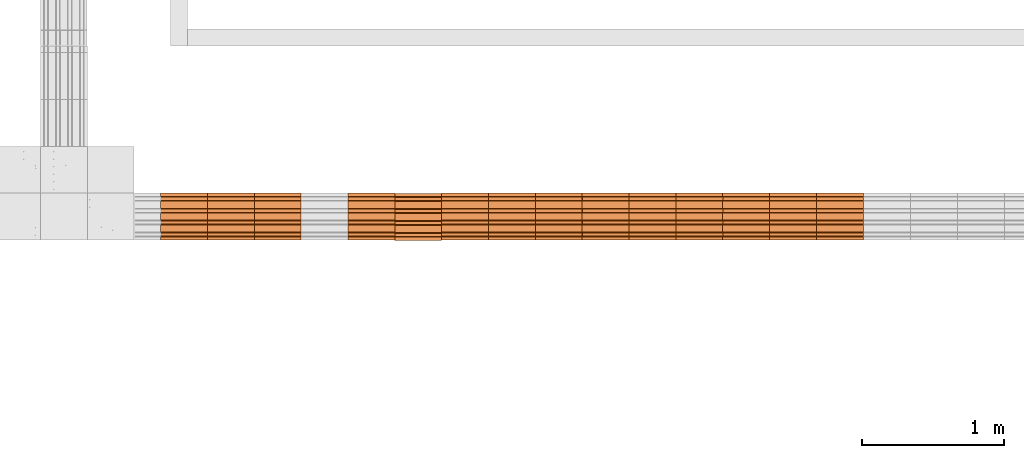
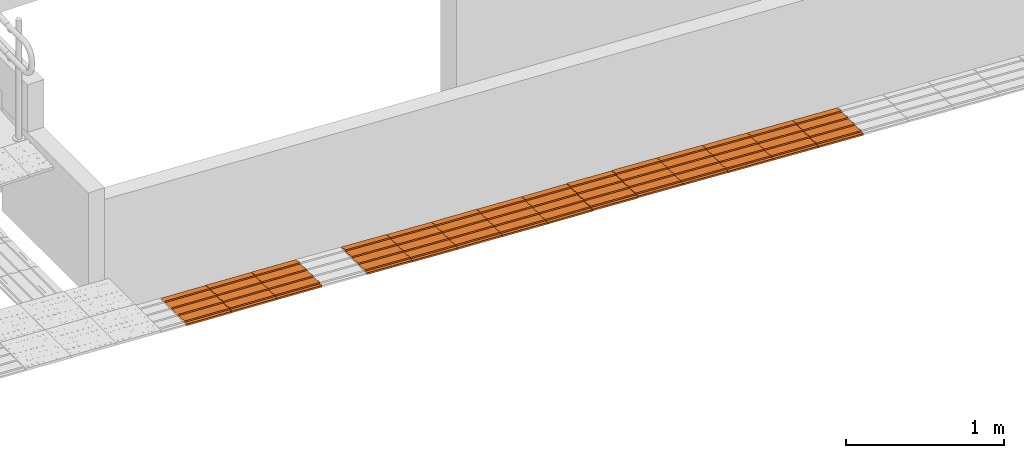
# One storey, part 173 of 237: 14 proxies.
"""IFC2X3 building model written with IfcOpenShell, lengths in millimetres."""

import ifcopenshell
import ifcopenshell.guid

model = None  # the IFC model being written
_history = None  # IfcOwnerHistory: only IFC2X3 demands one
_inside = {}  # id of a spatial element -> (the spatial element, [elements in it])
_under = {}  # id of a project, library or spatial element -> (it, [spatial elements below it])
_declared = {}  # id of a project -> (the project, [libraries it declares])
_typed = {}  # id of a type object -> (the type object, [elements of that type])
_made_of = {}  # id of a material, layer set ... -> (it, [elements and type objects made of it])


def new_model(schema):
    """Start an empty IFC model of exactly this schema.

    Asked for "IFC4X3", IfcOpenShell would pick the latest addendum, in which some entities
    have other attributes; the version numbers below select the first issue.
    IFC2X3 requires an IfcOwnerHistory on every rooted entity: one is made here for all.
    """
    global model, _history
    if schema == "IFC4X3":
        model = ifcopenshell.file(schema_version=(4, 3, 0, 0))
    else:
        model = ifcopenshell.file(schema=schema)
    _inside.clear()
    _under.clear()
    _declared.clear()
    _typed.clear()
    _made_of.clear()
    _history = None
    if model.schema == "IFC2X3":
        org = make("IfcOrganization", Name="unknown")
        user = make(
            "IfcPersonAndOrganization",
            ThePerson=make("IfcPerson", FamilyName="unknown"),
            TheOrganization=org,
        )
        app = make(
            "IfcApplication",
            ApplicationDeveloper=org,
            Version="unknown",
            ApplicationFullName="unknown",
            ApplicationIdentifier="unknown",
        )
        _history = make(
            "IfcOwnerHistory",
            OwningUser=user,
            OwningApplication=app,
            ChangeAction="ADDED",
            CreationDate=0,
        )
    return model


def make(cls, **values):
    """One entity of the class cls with the attributes given. An attribute that is None is left unset."""
    return model.create_entity(
        cls, **{name: value for name, value in values.items() if value is not None}
    )


def entity(cls, *values):
    """Any entity or typed value of the class cls, its attributes in the order of the schema. None: left unset."""
    e = model.create_entity(cls)
    for i, value in enumerate(values):
        if value is not None:
            e[i] = value
    return e


def rooted(cls, **values):
    """An entity with a GlobalId (a new one), such as an element, a storey or a relation."""
    return make(cls, GlobalId=ifcopenshell.guid.new(), OwnerHistory=_history, **values)


def si_unit(unit_type, name, prefix=None):
    """IfcSIUnit, for example si_unit("LENGTHUNIT", "METRE", prefix="MILLI")."""
    return make("IfcSIUnit", UnitType=unit_type, Prefix=prefix, Name=name)


def converted_unit(unit_type, name, factor, base, dimensions=None, offset=None):
    """IfcConversionBasedUnit, such as the inch: factor (a typed value) times the base unit."""
    return make(
        "IfcConversionBasedUnit"
        if offset is None
        else "IfcConversionBasedUnitWithOffset",
        ConversionOffset=offset,
        Dimensions=None
        if dimensions is None
        else entity("IfcDimensionalExponents", *dimensions),
        UnitType=unit_type,
        Name=name,
        ConversionFactor=make(
            "IfcMeasureWithUnit", ValueComponent=factor, UnitComponent=base
        ),
    )


def derived_unit(unit_type, elements):
    """IfcDerivedUnit: a product of units, each with its exponent."""
    return make(
        "IfcDerivedUnit",
        Elements=[
            make("IfcDerivedUnitElement", Unit=unit, Exponent=power)
            for unit, power in elements
        ],
        UnitType=unit_type,
    )


def money_unit(currency):
    """IfcMonetaryUnit."""
    return make("IfcMonetaryUnit", Currency=currency)


def assignment(units):
    """IfcUnitAssignment: the units of a project."""
    return None if units is None else make("IfcUnitAssignment", Units=units)


def point(xyz):
    """IfcCartesianPoint."""
    return None if xyz is None else make("IfcCartesianPoint", Coordinates=xyz)


def direction(xyz):
    """IfcDirection."""
    return None if xyz is None else make("IfcDirection", DirectionRatios=xyz)


def frame(location, z_axis=None, x_axis=None):
    """IfcAxis2Placement3D, a coordinate frame: its origin and axes. An axis left out is left unset."""
    return make(
        "IfcAxis2Placement3D",
        Location=point(location),
        Axis=direction(z_axis),
        RefDirection=direction(x_axis),
    )


def origin_with_axes():
    """The frame at (0, 0, 0) with the z axis (0, 0, 1) and the x axis (1, 0, 0) written out."""
    return frame((0.0, 0.0, 0.0), z_axis=(0.0, 0.0, 1.0), x_axis=(1.0, 0.0, 0.0))


def place(relative_to, where):
    """IfcLocalPlacement: puts the frame where relative to a parent placement (None: the world)."""
    return make(
        "IfcLocalPlacement", PlacementRelTo=relative_to, RelativePlacement=where
    )


def context(
    kind, dimensions, precision=None, world=None, true_north=None, identifier=None
):
    """IfcGeometricRepresentationContext, for example the 3D "Model" context."""
    return make(
        "IfcGeometricRepresentationContext",
        ContextIdentifier=identifier,
        ContextType=kind,
        CoordinateSpaceDimension=dimensions,
        Precision=precision,
        WorldCoordinateSystem=world,
        TrueNorth=true_north,
    )


def subcontext(parent, identifier, kind, view, scale=None):
    """IfcGeometricRepresentationSubContext, for example "Body" below "Model"."""
    return make(
        "IfcGeometricRepresentationSubContext",
        ContextIdentifier=identifier,
        ContextType=kind,
        ParentContext=parent,
        TargetScale=scale,
        TargetView=view,
    )


def project(units=None, contexts=None):
    """IfcProject with its units and contexts."""
    return rooted(
        "IfcProject",
        Name="project",
        RepresentationContexts=contexts,
        UnitsInContext=assignment(units),
    )


def spatial(cls, under=None, at=None, **own):
    """A site, building, storey or space (cls), placed at a placement, below another one or the project."""
    s = rooted(cls, ObjectPlacement=at, **own)
    if under is not None:
        _under.setdefault(under.id(), (under, []))[1].append(s)
    return s


def faces_of(points, faces, orient=None, outer=None):
    """IfcFace entities. A face is a list of loops; a loop is a list of indices into points, from 0.

    orient and outer hold one flag for each loop. By default every Orientation is true, the
    first loop of a face is its IfcFaceOuterBound and the others are IfcFaceBound.
    """
    made = []
    for i, loops in enumerate(faces):
        bounds = []
        for j, loop in enumerate(loops):
            is_outer = j == 0 if outer is None else outer[i][j]
            bounds.append(
                make(
                    "IfcFaceOuterBound" if is_outer else "IfcFaceBound",
                    Bound=make("IfcPolyLoop", Polygon=[points[k] for k in loop]),
                    Orientation=True if orient is None else orient[i][j],
                )
            )
        made.append(make("IfcFace", Bounds=bounds))
    return made


def open_shell(faces, orient=None, outer=None):
    """The faces of one IfcOpenShell. surface_model builds it on its shared points."""
    return ("IfcOpenShell", faces, orient, outer)


def surface_model(cls, points, shells):
    """IfcFaceBasedSurfaceModel or IfcShellBasedSurfaceModel (cls): surfaces that need not close."""
    shared = [point(p) for p in points]
    made = [make(c, CfsFaces=faces_of(shared, fs, o, b)) for c, fs, o, b in shells]
    if cls == "IfcFaceBasedSurfaceModel":
        return make(cls, FbsmFaces=made)
    return make(cls, SbsmBoundary=made)


def shape(context_of_items, identifier, shape_type, items):
    """IfcShapeRepresentation: the items that make up one representation, for example the "Body"."""
    return make(
        "IfcShapeRepresentation",
        ContextOfItems=context_of_items,
        RepresentationIdentifier=identifier,
        RepresentationType=shape_type,
        Items=items,
    )


def source(mapping_origin, context_of_items, identifier, shape_type, items):
    """IfcRepresentationMap: a shape defined once, which mapped items show again and again."""
    return make(
        "IfcRepresentationMap",
        MappingOrigin=mapping_origin,
        MappedRepresentation=shape(context_of_items, identifier, shape_type, items),
    )


def transform(
    local_origin,
    x_axis=None,
    y_axis=None,
    z_axis=None,
    scale=None,
    scale2=None,
    scale3=None,
    uniform=True,
):
    """IfcCartesianTransformationOperator3D, or its non-uniform kind. x_axis, y_axis, z_axis: its Axis1, 2, 3."""
    if uniform:
        return make(
            "IfcCartesianTransformationOperator3D",
            Axis1=direction(x_axis),
            Axis2=direction(y_axis),
            LocalOrigin=point(local_origin),
            Scale=scale,
            Axis3=direction(z_axis),
        )
    return make(
        "IfcCartesianTransformationOperator3DnonUniform",
        Axis1=direction(x_axis),
        Axis2=direction(y_axis),
        LocalOrigin=point(local_origin),
        Scale=scale,
        Axis3=direction(z_axis),
        Scale2=scale2,
        Scale3=scale3,
    )


def mapped(mapping_source, mapping_target):
    """IfcMappedItem: shows the shape of a source again, moved by a transform."""
    return make(
        "IfcMappedItem", MappingSource=mapping_source, MappingTarget=mapping_target
    )


def made_of(thing, what):
    """Note that an element or type object is made of a material, layer set ...; save() writes the relation."""
    if what is not None:
        _made_of.setdefault(what.id(), (what, []))[1].append(thing)
    return thing


def type_object(cls, material=None, **own):
    """A type object (cls), such as IfcWallType, which elements share."""
    return made_of(rooted(cls, **own), material)


def element(
    cls,
    number,
    at=None,
    inside=None,
    cuts=None,
    type_object=None,
    material=None,
    context=None,
    identifier="Body",
    shape_type=None,
    held_by="IfcProductDefinitionShape",
    body=None,
    shapes=None,
    **own,
):
    """One element of the class cls, such as IfcWall. Its Tag is "e" and its number.

    at: its placement. inside: the storey or other place that contains it. cuts: it is an
    opening in that element (IfcRelVoidsElement). A single representation is given by context,
    identifier, shape_type and body (its items); several are given by shapes. held_by: the class
    of the entity that holds the representations. save() writes the other relations.
    """
    e = rooted(cls, Tag="e%d" % number, ObjectPlacement=at, **own)
    if body is not None:
        shapes = [shape(context, identifier, shape_type, body)]
    if shapes is not None:
        e.Representation = make(held_by, Representations=shapes)
    if inside is not None:
        _inside.setdefault(inside.id(), (inside, []))[1].append(e)
    if cuts is not None:
        rooted(
            "IfcRelVoidsElement", RelatingBuildingElement=cuts, RelatedOpeningElement=e
        )
    if type_object is not None:
        _typed.setdefault(type_object.id(), (type_object, []))[1].append(e)
    return made_of(e, material)


def aggregate(whole, parts):
    """IfcRelAggregates: a whole, such as a stair, and the parts it consists of."""
    return rooted("IfcRelAggregates", RelatingObject=whole, RelatedObjects=parts)


def save(model, path):
    """Write the relations noted so far, then the file.

    IfcRelAggregates (storeys below a building ...), IfcRelContainedInSpatialStructure (elements
    in a storey), IfcRelDefinesByType, IfcRelAssociatesMaterial and IfcRelDeclares: one each for
    every whole, place, type object, material and project.
    """
    for whole, parts in _under.values():
        aggregate(whole, parts)
    for where, things in _inside.values():
        rooted(
            "IfcRelContainedInSpatialStructure",
            RelatedElements=things,
            RelatingStructure=where,
        )
    for kind, things in _typed.values():
        rooted("IfcRelDefinesByType", RelatedObjects=things, RelatingType=kind)
    for what, things in _made_of.values():
        rooted("IfcRelAssociatesMaterial", RelatedObjects=things, RelatingMaterial=what)
    for by, libraries in _declared.values():
        rooted("IfcRelDeclares", RelatingContext=by, RelatedDefinitions=libraries)
    model.write(path)


model = new_model("IFC2X3")

# Units and contexts
model_context = context("Model", 3, precision=0.01, world=origin_with_axes(), true_north=direction((0.0, 1.0)))
body_context = subcontext(model_context, "Body", "Model", "MODEL_VIEW")
ifc_project = project(units=[si_unit("LENGTHUNIT", "METRE", prefix="MILLI"), si_unit("AREAUNIT", "SQUARE_METRE"), si_unit("VOLUMEUNIT", "CUBIC_METRE"), converted_unit("PLANEANGLEUNIT", "DEGREE", entity("IfcPlaneAngleMeasure", 0.0174532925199), si_unit("PLANEANGLEUNIT", "RADIAN"), dimensions=[0, 0, 0, 0, 0, 0, 0]), money_unit("USD"), converted_unit("TIMEUNIT", "Year", entity("IfcTimeMeasure", 31556926.0), si_unit("TIMEUNIT", "SECOND"), dimensions=[0, 0, 1, 0, 0, 0, 0]), si_unit("MASSUNIT", "GRAM", prefix="KILO"), si_unit("THERMODYNAMICTEMPERATUREUNIT", "DEGREE_CELSIUS"), si_unit("LUMINOUSINTENSITYUNIT", "LUMEN"), si_unit("ENERGYUNIT", "JOULE", prefix="MEGA"), derived_unit("THERMALCONDUCTANCEUNIT", [(si_unit("POWERUNIT", "WATT"), 1), (si_unit("LENGTHUNIT", "METRE"), -1), (si_unit("THERMODYNAMICTEMPERATUREUNIT", "KELVIN"), -1)]), derived_unit("SPECIFICHEATCAPACITYUNIT", [(si_unit("ENERGYUNIT", "JOULE"), 1), (si_unit("MASSUNIT", "GRAM", prefix="KILO"), -1), (si_unit("THERMODYNAMICTEMPERATUREUNIT", "KELVIN"), -1)]), derived_unit("MASSDENSITYUNIT", [(si_unit("MASSUNIT", "GRAM", prefix="KILO"), 1), (si_unit("VOLUMEUNIT", "CUBIC_METRE"), -1)])], contexts=[model_context])

# Site, building, storey
site_placement = place(None, origin_with_axes())
site = spatial("IfcSite", under=ifc_project, at=site_placement, Name="Local", CompositionType="ELEMENT")
building_placement = place(site_placement, origin_with_axes())
building = spatial("IfcBuilding", under=site, at=building_placement, Name="Construção", CompositionType="ELEMENT")
storey_placement = place(building_placement, origin_with_axes())
storey = spatial("IfcBuildingStorey", under=building, at=storey_placement, Name="Pavimento Térreo", CompositionType="ELEMENT", Elevation=0.0)

# Proxies
building_element_proxy_type = type_object("IfcBuildingElementProxyType", Name="Piso Direcional 27", PredefinedType="NOTDEFINED")
shared_shape_1 = source(origin_with_axes(), body_context, "Body", "SurfaceModel", [
    surface_model("IfcShellBasedSurfaceModel", [(-0.196792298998, -47.258225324, 4.02371099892), (329.409233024, -47.258225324, 20.1441350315), (329.083567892, -41.665004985, 26.8028426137), (-0.522457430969, -41.665004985, 10.6824185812)], [open_shell([[[0, 1, 2, 3]]])]),
    surface_model("IfcShellBasedSurfaceModel", [(330.060563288, -153.529411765, 6.82671986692), (330.060563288, 176.470588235, 6.82671986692), (329.409233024, 176.470588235, 20.1441350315), (329.409233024, 154.097706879, 20.1441350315), (329.083567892, 148.50448654, 26.8028426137), (329.083567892, 126.131605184, 26.8028426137), (329.409233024, 120.538384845, 20.1441350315), (329.409233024, 70.1994017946, 20.1441350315), (329.083567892, 64.6061814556, 26.8028426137), (329.083567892, 42.2333000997, 26.8028426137), (329.409233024, 36.6400797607, 20.1441350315), (329.409233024, -13.6989032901, 20.1441350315), (329.083567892, -19.2921236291, 26.8028426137), (329.083567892, -41.665004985, 26.8028426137), (329.409233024, -47.258225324, 20.1441350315), (329.409233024, -97.5972083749, 20.1441350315), (329.083567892, -103.190428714, 26.8028426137), (329.083567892, -125.56331007, 26.8028426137), (329.409233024, -131.156530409, 20.1441350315), (329.409233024, -153.529411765, 20.1441350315)], [open_shell([[[0, 1, 2, 3, 4, 5, 6, 7, 8, 9, 10, 11, 12, 13, 14, 15, 16, 17, 18, 19]]])]),
    surface_model("IfcShellBasedSurfaceModel", [(-0.522457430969, -19.2921236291, 10.6824185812), (329.083567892, -19.2921236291, 26.8028426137), (329.409233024, -13.6989032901, 20.1441350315), (-0.196792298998, -13.6989032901, 4.02371099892)], [open_shell([[[0, 1, 2, 3]]])]),
    surface_model("IfcShellBasedSurfaceModel", [(-0.522457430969, -103.190428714, 10.6824185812), (329.083567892, -103.190428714, 26.8028426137), (329.409233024, -97.5972083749, 20.1441350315), (-0.196792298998, -97.5972083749, 4.02371099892)], [open_shell([[[0, 1, 2, 3]]])]),
    surface_model("IfcShellBasedSurfaceModel", [(-0.522457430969, 64.6061814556, 10.6824185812), (329.083567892, 64.6061814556, 26.8028426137), (329.409233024, 70.1994017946, 20.1441350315), (-0.196792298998, 70.1994017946, 4.02371099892)], [open_shell([[[0, 1, 2, 3]]])]),
    surface_model("IfcShellBasedSurfaceModel", [(-0.196792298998, 36.6400797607, 4.02371099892), (329.409233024, 36.6400797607, 20.1441350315), (329.083567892, 42.2333000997, 26.8028426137), (-0.522457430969, 42.2333000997, 10.6824185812)], [open_shell([[[0, 1, 2, 3]]])]),
    surface_model("IfcShellBasedSurfaceModel", [(-0.196792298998, -131.156530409, 4.02371099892), (329.409233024, -131.156530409, 20.1441350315), (329.083567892, -125.56331007, 26.8028426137), (-0.522457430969, -125.56331007, 10.6824185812)], [open_shell([[[0, 1, 2, 3]]])]),
    surface_model("IfcShellBasedSurfaceModel", [(-0.196792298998, 176.470588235, 4.02371099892), (-0.196792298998, 154.097706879, 4.02371099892), (329.409233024, 154.097706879, 20.1441350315), (329.409233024, 176.470588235, 20.1441350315)], [open_shell([[[0, 1, 2, 3]]])]),
    surface_model("IfcShellBasedSurfaceModel", [(-0.196792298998, 120.538384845, 4.02371099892), (329.409233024, 120.538384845, 20.1441350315), (329.083567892, 126.131605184, 26.8028426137), (-0.522457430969, 126.131605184, 10.6824185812)], [open_shell([[[0, 1, 2, 3]]])]),
    surface_model("IfcShellBasedSurfaceModel", [(-0.522457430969, 148.50448654, 10.6824185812), (329.083567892, 148.50448654, 26.8028426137), (329.409233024, 154.097706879, 20.1441350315), (-0.196792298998, 154.097706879, 4.02371099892)], [open_shell([[[0, 1, 2, 3]]])]),
    surface_model("IfcShellBasedSurfaceModel", [(-0.196792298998, 36.6400797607, 4.02371099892), (-0.196792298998, -13.6989032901, 4.02371099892), (329.409233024, -13.6989032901, 20.1441350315), (329.409233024, 36.6400797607, 20.1441350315)], [open_shell([[[0, 1, 2, 3]]])]),
    surface_model("IfcShellBasedSurfaceModel", [(-0.196792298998, 120.538384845, 4.02371099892), (-0.196792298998, 70.1994017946, 4.02371099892), (329.409233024, 70.1994017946, 20.1441350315), (329.409233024, 120.538384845, 20.1441350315)], [open_shell([[[0, 1, 2, 3]]])]),
    surface_model("IfcShellBasedSurfaceModel", [(-0.522457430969, 148.50448654, 10.6824185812), (-0.522457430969, 126.131605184, 10.6824185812), (329.083567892, 126.131605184, 26.8028426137), (329.083567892, 148.50448654, 26.8028426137)], [open_shell([[[0, 1, 2, 3]]])]),
    surface_model("IfcShellBasedSurfaceModel", [(-0.196792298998, 120.538384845, 4.02371099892), (-0.522457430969, 126.131605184, 10.6824185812), (-0.522457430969, 148.50448654, 10.6824185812), (-0.196792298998, 154.097706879, 4.02371099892), (-0.196792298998, 176.470588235, 4.02371099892), (0.454537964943, 176.470588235, -9.29370416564), (0.454537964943, -153.529411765, -9.29370416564), (-0.196792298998, -153.529411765, 4.02371099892), (-0.196792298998, -131.156530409, 4.02371099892), (-0.522457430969, -125.56331007, 10.6824185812), (-0.522457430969, -103.190428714, 10.6824185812), (-0.196792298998, -97.5972083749, 4.02371099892), (-0.196792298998, -47.258225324, 4.02371099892), (-0.522457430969, -41.665004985, 10.6824185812), (-0.522457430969, -19.2921236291, 10.6824185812), (-0.196792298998, -13.6989032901, 4.02371099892), (-0.196792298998, 36.6400797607, 4.02371099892), (-0.522457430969, 42.2333000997, 10.6824185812), (-0.522457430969, 64.6061814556, 10.6824185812), (-0.196792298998, 70.1994017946, 4.02371099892)], [open_shell([[[0, 1, 2, 3, 4, 5, 6, 7, 8, 9, 10, 11, 12, 13, 14, 15, 16, 17, 18, 19]]])]),
    surface_model("IfcShellBasedSurfaceModel", [(329.083567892, -41.665004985, 26.8028426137), (329.083567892, -19.2921236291, 26.8028426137), (-0.522457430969, -19.2921236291, 10.6824185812), (-0.522457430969, -41.665004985, 10.6824185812)], [open_shell([[[0, 1, 2, 3]]])]),
    surface_model("IfcShellBasedSurfaceModel", [(-0.196792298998, -47.258225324, 4.02371099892), (-0.196792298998, -97.5972083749, 4.02371099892), (329.409233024, -97.5972083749, 20.1441350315), (329.409233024, -47.258225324, 20.1441350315)], [open_shell([[[0, 1, 2, 3]]])]),
    surface_model("IfcShellBasedSurfaceModel", [(329.083567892, 42.2333000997, 26.8028426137), (329.083567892, 64.6061814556, 26.8028426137), (-0.522457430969, 64.6061814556, 10.6824185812), (-0.522457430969, 42.2333000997, 10.6824185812)], [open_shell([[[0, 1, 2, 3]]])]),
    surface_model("IfcShellBasedSurfaceModel", [(329.083567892, -125.56331007, 26.8028426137), (329.083567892, -103.190428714, 26.8028426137), (-0.522457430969, -103.190428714, 10.6824185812), (-0.522457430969, -125.56331007, 10.6824185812)], [open_shell([[[0, 1, 2, 3]]])]),
    surface_model("IfcShellBasedSurfaceModel", [(330.060563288, 176.470588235, 6.82671986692), (0.454537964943, 176.470588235, -9.29370416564), (-0.196792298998, 176.470588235, 4.02371099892), (329.409233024, 176.470588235, 20.1441350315)], [open_shell([[[0, 1, 2, 3]]])]),
    surface_model("IfcShellBasedSurfaceModel", [(330.060563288, -153.529411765, 6.82671986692), (0.454537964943, -153.529411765, -9.29370416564), (0.454537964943, 176.470588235, -9.29370416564), (330.060563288, 176.470588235, 6.82671986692)], [open_shell([[[0, 1, 2, 3]]])]),
    surface_model("IfcShellBasedSurfaceModel", [(329.409233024, -153.529411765, 20.1441350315), (329.409233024, -131.156530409, 20.1441350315), (-0.196792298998, -131.156530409, 4.02371099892), (-0.196792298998, -153.529411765, 4.02371099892)], [open_shell([[[0, 1, 2, 3]]])]),
    surface_model("IfcShellBasedSurfaceModel", [(0.454537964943, -153.529411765, -9.29370416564), (330.060563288, -153.529411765, 6.82671986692), (329.409233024, -153.529411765, 20.1441350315), (-0.196792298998, -153.529411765, 4.02371099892)], [open_shell([[[0, 1, 2, 3]]])]),
])
for number, where, z_axis, x_axis, name in (
    (1, (85476.0552148, 10834.0941893, -5405.77115897), (0.0, 0.0, 1.0), (-1.0, 0.0, 0.0), "Objeto-0055"),
    (2, (87782.8344555, 10834.0941893, -5529.40171865), (0.0, 0.0, 1.0), (-1.0, 0.0, 0.0), "Objeto-0055"),
    (3, (87123.4118632, 10834.0941893, -5495.09319497), (0.0, 0.0, 1.0), (-1.0, 0.0, 0.0), "Objeto-0055"),
    (4, (85146.8127796, 10834.0941893, -5391.2199008), (0.0, 0.0, 1.0), (-1.0, 0.0, 0.0), "Objeto-0055"),
):
    element("IfcBuildingElementProxy", number, at=place(storey_placement, frame(where, z_axis=z_axis, x_axis=x_axis)), inside=storey, type_object=building_element_proxy_type, Name=name, context=body_context, shape_type="MappedRepresentation", body=[
        mapped(shared_shape_1, transform((0.0, 0.0, 0.0))),
    ])
shared_shape_2 = source(origin_with_axes(), body_context, "Body", "SurfaceModel", [
    surface_model("IfcShellBasedSurfaceModel", [(-0.224878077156, -47.258225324, 4.02223908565), (329.260574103, -47.258225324, 22.4433357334), (328.888430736, -41.665004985, 29.0996074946), (-0.597021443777, -41.665004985, 10.6785108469)], [open_shell([[[0, 1, 2, 3]]])]),
    surface_model("IfcShellBasedSurfaceModel", [(330.004860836, -153.529411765, 9.13079221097), (330.004860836, 176.470588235, 9.13079221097), (329.260574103, 176.470588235, 22.4433357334), (329.260574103, 154.097706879, 22.4433357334), (328.888430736, 148.50448654, 29.0996074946), (328.888430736, 126.131605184, 29.0996074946), (329.260574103, 120.538384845, 22.4433357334), (329.260574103, 70.1994017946, 22.4433357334), (328.888430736, 64.6061814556, 29.0996074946), (328.888430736, 42.2333000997, 29.0996074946), (329.260574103, 36.6400797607, 22.4433357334), (329.260574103, -13.6989032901, 22.4433357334), (328.888430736, -19.2921236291, 29.0996074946), (328.888430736, -41.665004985, 29.0996074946), (329.260574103, -47.258225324, 22.4433357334), (329.260574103, -97.5972083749, 22.4433357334), (328.888430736, -103.190428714, 29.0996074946), (328.888430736, -125.56331007, 29.0996074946), (329.260574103, -131.156530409, 22.4433357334), (329.260574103, -153.529411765, 22.4433357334)], [open_shell([[[0, 1, 2, 3, 4, 5, 6, 7, 8, 9, 10, 11, 12, 13, 14, 15, 16, 17, 18, 19]]])]),
    surface_model("IfcShellBasedSurfaceModel", [(-0.597021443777, -19.2921236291, 10.6785108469), (328.888430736, -19.2921236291, 29.0996074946), (329.260574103, -13.6989032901, 22.4433357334), (-0.224878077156, -13.6989032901, 4.02223908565)], [open_shell([[[0, 1, 2, 3]]])]),
    surface_model("IfcShellBasedSurfaceModel", [(-0.597021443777, -103.190428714, 10.6785108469), (328.888430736, -103.190428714, 29.0996074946), (329.260574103, -97.5972083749, 22.4433357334), (-0.224878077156, -97.5972083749, 4.02223908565)], [open_shell([[[0, 1, 2, 3]]])]),
    surface_model("IfcShellBasedSurfaceModel", [(-0.597021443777, 64.6061814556, 10.6785108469), (328.888430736, 64.6061814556, 29.0996074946), (329.260574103, 70.1994017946, 22.4433357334), (-0.224878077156, 70.1994017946, 4.02223908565)], [open_shell([[[0, 1, 2, 3]]])]),
    surface_model("IfcShellBasedSurfaceModel", [(-0.224878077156, 36.6400797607, 4.02223908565), (329.260574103, 36.6400797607, 22.4433357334), (328.888430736, 42.2333000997, 29.0996074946), (-0.597021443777, 42.2333000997, 10.6785108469)], [open_shell([[[0, 1, 2, 3]]])]),
    surface_model("IfcShellBasedSurfaceModel", [(-0.224878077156, -131.156530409, 4.02223908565), (329.260574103, -131.156530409, 22.4433357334), (328.888430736, -125.56331007, 29.0996074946), (-0.597021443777, -125.56331007, 10.6785108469)], [open_shell([[[0, 1, 2, 3]]])]),
    surface_model("IfcShellBasedSurfaceModel", [(-0.224878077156, 176.470588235, 4.02223908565), (-0.224878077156, 154.097706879, 4.02223908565), (329.260574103, 154.097706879, 22.4433357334), (329.260574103, 176.470588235, 22.4433357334)], [open_shell([[[0, 1, 2, 3]]])]),
    surface_model("IfcShellBasedSurfaceModel", [(-0.224878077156, 120.538384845, 4.02223908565), (329.260574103, 120.538384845, 22.4433357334), (328.888430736, 126.131605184, 29.0996074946), (-0.597021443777, 126.131605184, 10.6785108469)], [open_shell([[[0, 1, 2, 3]]])]),
    surface_model("IfcShellBasedSurfaceModel", [(-0.597021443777, 148.50448654, 10.6785108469), (328.888430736, 148.50448654, 29.0996074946), (329.260574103, 154.097706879, 22.4433357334), (-0.224878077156, 154.097706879, 4.02223908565)], [open_shell([[[0, 1, 2, 3]]])]),
    surface_model("IfcShellBasedSurfaceModel", [(-0.224878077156, 36.6400797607, 4.02223908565), (-0.224878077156, -13.6989032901, 4.02223908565), (329.260574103, -13.6989032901, 22.4433357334), (329.260574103, 36.6400797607, 22.4433357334)], [open_shell([[[0, 1, 2, 3]]])]),
    surface_model("IfcShellBasedSurfaceModel", [(-0.224878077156, 120.538384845, 4.02223908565), (-0.224878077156, 70.1994017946, 4.02223908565), (329.260574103, 70.1994017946, 22.4433357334), (329.260574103, 120.538384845, 22.4433357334)], [open_shell([[[0, 1, 2, 3]]])]),
    surface_model("IfcShellBasedSurfaceModel", [(-0.597021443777, 148.50448654, 10.6785108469), (-0.597021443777, 126.131605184, 10.6785108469), (328.888430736, 126.131605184, 29.0996074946), (328.888430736, 148.50448654, 29.0996074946)], [open_shell([[[0, 1, 2, 3]]])]),
    surface_model("IfcShellBasedSurfaceModel", [(-0.224878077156, 120.538384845, 4.02223908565), (-0.597021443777, 126.131605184, 10.6785108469), (-0.597021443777, 148.50448654, 10.6785108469), (-0.224878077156, 154.097706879, 4.02223908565), (-0.224878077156, 176.470588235, 4.02223908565), (0.519408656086, 176.470588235, -9.29030443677), (0.519408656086, -153.529411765, -9.29030443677), (-0.224878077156, -153.529411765, 4.02223908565), (-0.224878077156, -131.156530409, 4.02223908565), (-0.597021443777, -125.56331007, 10.6785108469), (-0.597021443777, -103.190428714, 10.6785108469), (-0.224878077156, -97.5972083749, 4.02223908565), (-0.224878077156, -47.258225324, 4.02223908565), (-0.597021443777, -41.665004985, 10.6785108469), (-0.597021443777, -19.2921236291, 10.6785108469), (-0.224878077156, -13.6989032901, 4.02223908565), (-0.224878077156, 36.6400797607, 4.02223908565), (-0.597021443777, 42.2333000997, 10.6785108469), (-0.597021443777, 64.6061814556, 10.6785108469), (-0.224878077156, 70.1994017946, 4.02223908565)], [open_shell([[[0, 1, 2, 3, 4, 5, 6, 7, 8, 9, 10, 11, 12, 13, 14, 15, 16, 17, 18, 19]]])]),
    surface_model("IfcShellBasedSurfaceModel", [(328.888430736, -41.665004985, 29.0996074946), (328.888430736, -19.2921236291, 29.0996074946), (-0.597021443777, -19.2921236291, 10.6785108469), (-0.597021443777, -41.665004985, 10.6785108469)], [open_shell([[[0, 1, 2, 3]]])]),
    surface_model("IfcShellBasedSurfaceModel", [(-0.224878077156, -47.258225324, 4.02223908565), (-0.224878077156, -97.5972083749, 4.02223908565), (329.260574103, -97.5972083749, 22.4433357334), (329.260574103, -47.258225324, 22.4433357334)], [open_shell([[[0, 1, 2, 3]]])]),
    surface_model("IfcShellBasedSurfaceModel", [(328.888430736, 42.2333000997, 29.0996074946), (328.888430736, 64.6061814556, 29.0996074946), (-0.597021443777, 64.6061814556, 10.6785108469), (-0.597021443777, 42.2333000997, 10.6785108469)], [open_shell([[[0, 1, 2, 3]]])]),
    surface_model("IfcShellBasedSurfaceModel", [(328.888430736, -125.56331007, 29.0996074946), (328.888430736, -103.190428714, 29.0996074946), (-0.597021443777, -103.190428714, 10.6785108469), (-0.597021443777, -125.56331007, 10.6785108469)], [open_shell([[[0, 1, 2, 3]]])]),
    surface_model("IfcShellBasedSurfaceModel", [(330.004860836, 176.470588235, 9.13079221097), (0.519408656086, 176.470588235, -9.29030443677), (-0.224878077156, 176.470588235, 4.02223908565), (329.260574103, 176.470588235, 22.4433357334)], [open_shell([[[0, 1, 2, 3]]])]),
    surface_model("IfcShellBasedSurfaceModel", [(330.004860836, -153.529411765, 9.13079221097), (0.519408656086, -153.529411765, -9.29030443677), (0.519408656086, 176.470588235, -9.29030443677), (330.004860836, 176.470588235, 9.13079221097)], [open_shell([[[0, 1, 2, 3]]])]),
    surface_model("IfcShellBasedSurfaceModel", [(329.260574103, -153.529411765, 22.4433357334), (329.260574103, -131.156530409, 22.4433357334), (-0.224878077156, -131.156530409, 4.02223908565), (-0.224878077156, -153.529411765, 4.02223908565)], [open_shell([[[0, 1, 2, 3]]])]),
    surface_model("IfcShellBasedSurfaceModel", [(0.519408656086, -153.529411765, -9.29030443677), (330.004860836, -153.529411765, 9.13079221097), (329.260574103, -153.529411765, 22.4433357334), (-0.224878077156, -153.529411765, 4.02223908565)], [open_shell([[[0, 1, 2, 3]]])]),
])
for number, where, z_axis, x_axis, name in (
    (5, (86464.7507182, 10834.0941893, -5459.2680228), (0.0, 0.0, 1.0), (-1.0, 0.0, 0.0), "Objeto-0055"),
    (6, (89430.4538734, 10834.0941893, -5616.06440019), (0.0, 0.0, 1.0), (-1.0, 0.0, 0.0), "Objeto-0055"),
    (7, (89100.9684212, 10834.0941893, -5597.64330354), (0.0, 0.0, 1.0), (-1.0, 0.0, 0.0), "Objeto-0055"),
    (8, (86794.2361704, 10831.9020753, -5477.68911945), (0.0, 0.0, 1.0), (-1.0, 0.0, 0.0), "Objeto-0055"),
    (9, (88442.073602, 10834.0941893, -5559.44022854), (0.0, 0.0, 1.0), (-1.0, 0.0, 0.0), "Objeto-0055"),
    (10, (89761.1606079, 10834.0941893, -5634.55377712), (0.0, 0.0, 1.0), (-1.0, 0.0, 0.0), "Objeto-0055"),
    (11, (88112.4314153, 10834.0941893, -5544.49077169), (0.0, 0.0, 1.0), (-1.0, 0.0, 0.0), "Objeto-0055"),
    (12, (88771.5590541, 10834.0941893, -5577.86132519), (0.0, 0.0, 1.0), (-1.0, 0.0, 0.0), "Objeto-0055"),
):
    element("IfcBuildingElementProxy", number, at=place(storey_placement, frame(where, z_axis=z_axis, x_axis=x_axis)), inside=storey, type_object=building_element_proxy_type, Name=name, context=body_context, shape_type="MappedRepresentation", body=[
        mapped(shared_shape_2, transform((0.0, 0.0, 0.0))),
    ])
shared_shape_3 = source(origin_with_axes(), body_context, "Body", "SurfaceModel", [
    surface_model("IfcShellBasedSurfaceModel", [(-0.210836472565, -47.258225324, 4.02299955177), (329.336909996, -47.258225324, 21.2938651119), (328.988003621, -41.665004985, 27.9513953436), (-0.559742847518, -41.665004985, 10.6805297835)], [open_shell([[[0, 1, 2, 3]]])]),
    surface_model("IfcShellBasedSurfaceModel", [(330.034722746, -153.529411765, 7.97880464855), (330.034722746, 176.470588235, 7.97880464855), (329.336909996, 176.470588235, 21.2938651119), (329.336909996, 154.097706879, 21.2938651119), (328.988003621, 148.50448654, 27.9513953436), (328.988003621, 126.131605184, 27.9513953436), (329.336909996, 120.538384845, 21.2938651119), (329.336909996, 70.1994017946, 21.2938651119), (328.988003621, 64.6061814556, 27.9513953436), (328.988003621, 42.2333000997, 27.9513953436), (329.336909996, 36.6400797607, 21.2938651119), (329.336909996, -13.6989032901, 21.2938651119), (328.988003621, -19.2921236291, 27.9513953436), (328.988003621, -41.665004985, 27.9513953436), (329.336909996, -47.258225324, 21.2938651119), (329.336909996, -97.5972083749, 21.2938651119), (328.988003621, -103.190428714, 27.9513953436), (328.988003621, -125.56331007, 27.9513953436), (329.336909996, -131.156530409, 21.2938651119), (329.336909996, -153.529411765, 21.2938651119)], [open_shell([[[0, 1, 2, 3, 4, 5, 6, 7, 8, 9, 10, 11, 12, 13, 14, 15, 16, 17, 18, 19]]])]),
    surface_model("IfcShellBasedSurfaceModel", [(-0.559742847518, -19.2921236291, 10.6805297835), (328.988003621, -19.2921236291, 27.9513953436), (329.336909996, -13.6989032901, 21.2938651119), (-0.210836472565, -13.6989032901, 4.02299955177)], [open_shell([[[0, 1, 2, 3]]])]),
    surface_model("IfcShellBasedSurfaceModel", [(-0.559742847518, -103.190428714, 10.6805297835), (328.988003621, -103.190428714, 27.9513953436), (329.336909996, -97.5972083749, 21.2938651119), (-0.210836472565, -97.5972083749, 4.02299955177)], [open_shell([[[0, 1, 2, 3]]])]),
    surface_model("IfcShellBasedSurfaceModel", [(-0.559742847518, 64.6061814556, 10.6805297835), (328.988003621, 64.6061814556, 27.9513953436), (329.336909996, 70.1994017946, 21.2938651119), (-0.210836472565, 70.1994017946, 4.02299955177)], [open_shell([[[0, 1, 2, 3]]])]),
    surface_model("IfcShellBasedSurfaceModel", [(-0.210836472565, 36.6400797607, 4.02299955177), (329.336909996, 36.6400797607, 21.2938651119), (328.988003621, 42.2333000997, 27.9513953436), (-0.559742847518, 42.2333000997, 10.6805297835)], [open_shell([[[0, 1, 2, 3]]])]),
    surface_model("IfcShellBasedSurfaceModel", [(-0.210836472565, -131.156530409, 4.02299955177), (329.336909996, -131.156530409, 21.2938651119), (328.988003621, -125.56331007, 27.9513953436), (-0.559742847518, -125.56331007, 10.6805297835)], [open_shell([[[0, 1, 2, 3]]])]),
    surface_model("IfcShellBasedSurfaceModel", [(-0.210836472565, 176.470588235, 4.02299955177), (-0.210836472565, 154.097706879, 4.02299955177), (329.336909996, 154.097706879, 21.2938651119), (329.336909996, 176.470588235, 21.2938651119)], [open_shell([[[0, 1, 2, 3]]])]),
    surface_model("IfcShellBasedSurfaceModel", [(-0.210836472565, 120.538384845, 4.02299955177), (329.336909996, 120.538384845, 21.2938651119), (328.988003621, 126.131605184, 27.9513953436), (-0.559742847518, 126.131605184, 10.6805297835)], [open_shell([[[0, 1, 2, 3]]])]),
    surface_model("IfcShellBasedSurfaceModel", [(-0.559742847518, 148.50448654, 10.6805297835), (328.988003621, 148.50448654, 27.9513953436), (329.336909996, 154.097706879, 21.2938651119), (-0.210836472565, 154.097706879, 4.02299955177)], [open_shell([[[0, 1, 2, 3]]])]),
    surface_model("IfcShellBasedSurfaceModel", [(-0.210836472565, 36.6400797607, 4.02299955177), (-0.210836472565, -13.6989032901, 4.02299955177), (329.336909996, -13.6989032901, 21.2938651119), (329.336909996, 36.6400797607, 21.2938651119)], [open_shell([[[0, 1, 2, 3]]])]),
    surface_model("IfcShellBasedSurfaceModel", [(-0.210836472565, 120.538384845, 4.02299955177), (-0.210836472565, 70.1994017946, 4.02299955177), (329.336909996, 70.1994017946, 21.2938651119), (329.336909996, 120.538384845, 21.2938651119)], [open_shell([[[0, 1, 2, 3]]])]),
    surface_model("IfcShellBasedSurfaceModel", [(-0.559742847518, 148.50448654, 10.6805297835), (-0.559742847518, 126.131605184, 10.6805297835), (328.988003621, 126.131605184, 27.9513953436), (328.988003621, 148.50448654, 27.9513953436)], [open_shell([[[0, 1, 2, 3]]])]),
    surface_model("IfcShellBasedSurfaceModel", [(-0.210836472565, 120.538384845, 4.02299955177), (-0.559742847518, 126.131605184, 10.6805297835), (-0.559742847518, 148.50448654, 10.6805297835), (-0.210836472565, 154.097706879, 4.02299955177), (-0.210836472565, 176.470588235, 4.02299955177), (0.486976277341, 176.470588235, -9.29206091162), (0.486976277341, -153.529411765, -9.29206091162), (-0.210836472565, -153.529411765, 4.02299955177), (-0.210836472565, -131.156530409, 4.02299955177), (-0.559742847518, -125.56331007, 10.6805297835), (-0.559742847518, -103.190428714, 10.6805297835), (-0.210836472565, -97.5972083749, 4.02299955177), (-0.210836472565, -47.258225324, 4.02299955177), (-0.559742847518, -41.665004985, 10.6805297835), (-0.559742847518, -19.2921236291, 10.6805297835), (-0.210836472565, -13.6989032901, 4.02299955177), (-0.210836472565, 36.6400797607, 4.02299955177), (-0.559742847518, 42.2333000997, 10.6805297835), (-0.559742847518, 64.6061814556, 10.6805297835), (-0.210836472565, 70.1994017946, 4.02299955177)], [open_shell([[[0, 1, 2, 3, 4, 5, 6, 7, 8, 9, 10, 11, 12, 13, 14, 15, 16, 17, 18, 19]]])]),
    surface_model("IfcShellBasedSurfaceModel", [(328.988003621, -41.665004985, 27.9513953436), (328.988003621, -19.2921236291, 27.9513953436), (-0.559742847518, -19.2921236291, 10.6805297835), (-0.559742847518, -41.665004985, 10.6805297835)], [open_shell([[[0, 1, 2, 3]]])]),
    surface_model("IfcShellBasedSurfaceModel", [(-0.210836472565, -47.258225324, 4.02299955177), (-0.210836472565, -97.5972083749, 4.02299955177), (329.336909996, -97.5972083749, 21.2938651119), (329.336909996, -47.258225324, 21.2938651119)], [open_shell([[[0, 1, 2, 3]]])]),
    surface_model("IfcShellBasedSurfaceModel", [(328.988003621, 42.2333000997, 27.9513953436), (328.988003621, 64.6061814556, 27.9513953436), (-0.559742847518, 64.6061814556, 10.6805297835), (-0.559742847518, 42.2333000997, 10.6805297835)], [open_shell([[[0, 1, 2, 3]]])]),
    surface_model("IfcShellBasedSurfaceModel", [(328.988003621, -125.56331007, 27.9513953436), (328.988003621, -103.190428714, 27.9513953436), (-0.559742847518, -103.190428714, 10.6805297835), (-0.559742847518, -125.56331007, 10.6805297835)], [open_shell([[[0, 1, 2, 3]]])]),
    surface_model("IfcShellBasedSurfaceModel", [(330.034722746, 176.470588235, 7.97880464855), (0.486976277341, 176.470588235, -9.29206091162), (-0.210836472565, 176.470588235, 4.02299955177), (329.336909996, 176.470588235, 21.2938651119)], [open_shell([[[0, 1, 2, 3]]])]),
    surface_model("IfcShellBasedSurfaceModel", [(330.034722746, -153.529411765, 7.97880464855), (0.486976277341, -153.529411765, -9.29206091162), (0.486976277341, 176.470588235, -9.29206091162), (330.034722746, 176.470588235, 7.97880464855)], [open_shell([[[0, 1, 2, 3]]])]),
    surface_model("IfcShellBasedSurfaceModel", [(329.336909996, -153.529411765, 21.2938651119), (329.336909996, -131.156530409, 21.2938651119), (-0.210836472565, -131.156530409, 4.02299955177), (-0.210836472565, -153.529411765, 4.02299955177)], [open_shell([[[0, 1, 2, 3]]])]),
    surface_model("IfcShellBasedSurfaceModel", [(0.486976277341, -153.529411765, -9.29206091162), (330.034722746, -153.529411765, 7.97880464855), (329.336909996, -153.529411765, 21.2938651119), (-0.210836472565, -153.529411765, 4.02299955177)], [open_shell([[[0, 1, 2, 3]]])]),
])
for number, where, z_axis, x_axis, name in (
    (13, (87453.1911447, 10834.0941893, -5513.27940582), (0.0, 0.0, 1.0), (-1.0, 0.0, 0.0), "Objeto-0055"),
    (14, (85805.7973279, 10834.0941893, -5422.46794126), (0.0, 0.0, 1.0), (-1.0, 0.0, 0.0), "Objeto-0055"),
):
    element("IfcBuildingElementProxy", number, at=place(storey_placement, frame(where, z_axis=z_axis, x_axis=x_axis)), inside=storey, type_object=building_element_proxy_type, Name=name, context=body_context, shape_type="MappedRepresentation", body=[
        mapped(shared_shape_3, transform((0.0, 0.0, 0.0))),
    ])

save(model, "model.ifc")
